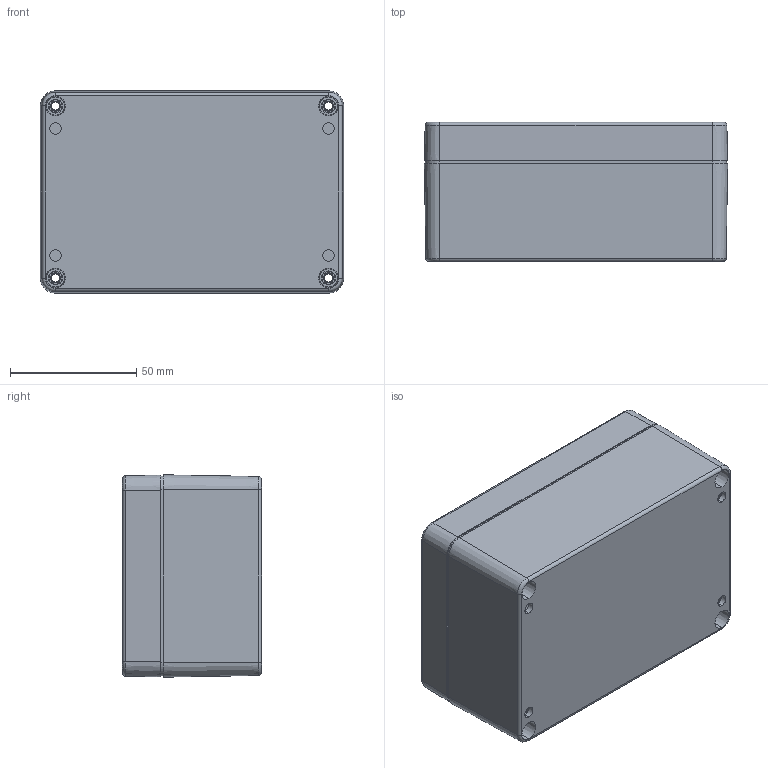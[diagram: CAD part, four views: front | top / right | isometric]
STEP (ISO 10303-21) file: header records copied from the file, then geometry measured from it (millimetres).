
FILE_DESCRIPTION (( 'STEP AP203' ), '1' );
FILE_NAME ('PE214.STEP', '2020-05-13T11:04:00', ( '' ), ( '' ), 'SwSTEP 2.0', 'SolidWorks 2020', '' );
FILE_SCHEMA (( 'CONFIG_CONTROL_DESIGN' ));
Length unit declared in the file: millimetre
Products named in the file (4): PE214
Assembly tree (3 placements, depth 2):
  PE214
    PE214
    PE214
    PE214
Bounding box: 120.07 x 55 x 80.07 mm (x, y, z)
Volume: 140097.5 mm3; surface area: 108324.6 mm2
Topology: 11 solids, 11 shells, 1363 faces, 3624 edges, 2338 vertices
Faces by surface type: bspline 472, cylinder 364, plane 307, cone 212, torus 8
Entity records: 48634 total; most frequent: CARTESIAN_POINT 17067, ORIENTED_EDGE 7212, DIRECTION 5574, EDGE_CURVE 3606, VERTEX_POINT 2338, AXIS2_PLACEMENT_3D 2043, EDGE_LOOP 1496, VECTOR 1488
